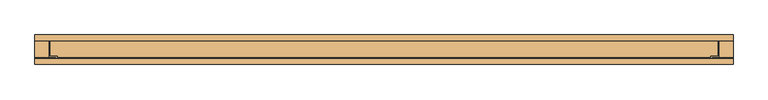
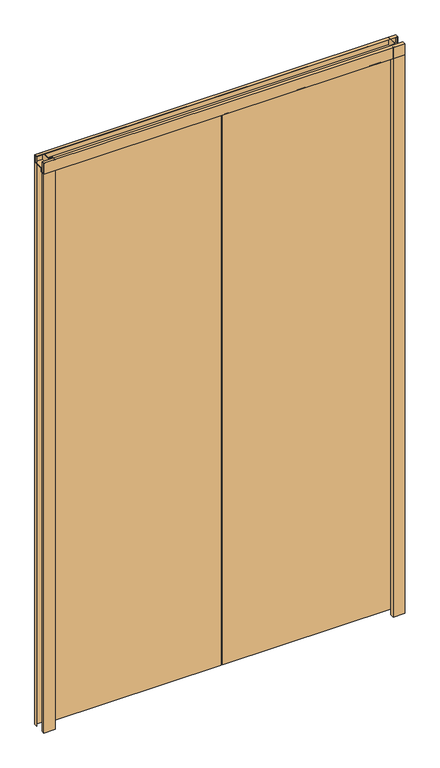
"""IFC4 building model written with IfcOpenShell, lengths in millimetres: door geometry, Puerta Metalica-lisa_doble : PH1-Puerta Metálica lisa_doble."""

import ifcopenshell
import ifcopenshell.guid

model = None  # the IFC model being written
_history = None  # IfcOwnerHistory: only IFC2X3 demands one
_inside = {}  # id of a spatial element -> (the spatial element, [elements in it])
_under = {}  # id of a project, library or spatial element -> (it, [spatial elements below it])
_declared = {}  # id of a project -> (the project, [libraries it declares])
_typed = {}  # id of a type object -> (the type object, [elements of that type])
_made_of = {}  # id of a material, layer set ... -> (it, [elements and type objects made of it])


def new_model(schema):
    """Start an empty IFC model of exactly this schema.

    Asked for "IFC4X3", IfcOpenShell would pick the latest addendum, in which some entities
    have other attributes; the version numbers below select the first issue.
    IFC2X3 requires an IfcOwnerHistory on every rooted entity: one is made here for all.
    """
    global model, _history
    if schema == "IFC4X3":
        model = ifcopenshell.file(schema_version=(4, 3, 0, 0))
    else:
        model = ifcopenshell.file(schema=schema)
    _inside.clear()
    _under.clear()
    _declared.clear()
    _typed.clear()
    _made_of.clear()
    _history = None
    if model.schema == "IFC2X3":
        org = make("IfcOrganization", Name="unknown")
        user = make(
            "IfcPersonAndOrganization",
            ThePerson=make("IfcPerson", FamilyName="unknown"),
            TheOrganization=org,
        )
        app = make(
            "IfcApplication",
            ApplicationDeveloper=org,
            Version="unknown",
            ApplicationFullName="unknown",
            ApplicationIdentifier="unknown",
        )
        _history = make(
            "IfcOwnerHistory",
            OwningUser=user,
            OwningApplication=app,
            ChangeAction="ADDED",
            CreationDate=0,
        )
    return model


def make(cls, **values):
    """One entity of the class cls with the attributes given. An attribute that is None is left unset."""
    return model.create_entity(
        cls, **{name: value for name, value in values.items() if value is not None}
    )


def rooted(cls, **values):
    """An entity with a GlobalId (a new one), such as an element, a storey or a relation."""
    return make(cls, GlobalId=ifcopenshell.guid.new(), OwnerHistory=_history, **values)


def si_unit(unit_type, name, prefix=None):
    """IfcSIUnit, for example si_unit("LENGTHUNIT", "METRE", prefix="MILLI")."""
    return make("IfcSIUnit", UnitType=unit_type, Prefix=prefix, Name=name)


def assignment(units):
    """IfcUnitAssignment: the units of a project."""
    return None if units is None else make("IfcUnitAssignment", Units=units)


def point(xyz):
    """IfcCartesianPoint."""
    return None if xyz is None else make("IfcCartesianPoint", Coordinates=xyz)


def direction(xyz):
    """IfcDirection."""
    return None if xyz is None else make("IfcDirection", DirectionRatios=xyz)


def frame(location, z_axis=None, x_axis=None):
    """IfcAxis2Placement3D, a coordinate frame: its origin and axes. An axis left out is left unset."""
    return make(
        "IfcAxis2Placement3D",
        Location=point(location),
        Axis=direction(z_axis),
        RefDirection=direction(x_axis),
    )


def origin():
    """The frame at (0, 0, 0) with its axes left unset."""
    return frame((0.0, 0.0, 0.0))


def origin_with_axes():
    """The frame at (0, 0, 0) with the z axis (0, 0, 1) and the x axis (1, 0, 0) written out."""
    return frame((0.0, 0.0, 0.0), z_axis=(0.0, 0.0, 1.0), x_axis=(1.0, 0.0, 0.0))


def place(relative_to, where):
    """IfcLocalPlacement: puts the frame where relative to a parent placement (None: the world)."""
    return make(
        "IfcLocalPlacement", PlacementRelTo=relative_to, RelativePlacement=where
    )


def context(
    kind, dimensions, precision=None, world=None, true_north=None, identifier=None
):
    """IfcGeometricRepresentationContext, for example the 3D "Model" context."""
    return make(
        "IfcGeometricRepresentationContext",
        ContextIdentifier=identifier,
        ContextType=kind,
        CoordinateSpaceDimension=dimensions,
        Precision=precision,
        WorldCoordinateSystem=world,
        TrueNorth=true_north,
    )


def project(units=None, contexts=None):
    """IfcProject with its units and contexts."""
    return rooted(
        "IfcProject",
        Name="project",
        RepresentationContexts=contexts,
        UnitsInContext=assignment(units),
    )


def spatial(cls, under=None, at=None, **own):
    """A site, building, storey or space (cls), placed at a placement, below another one or the project."""
    s = rooted(cls, ObjectPlacement=at, **own)
    if under is not None:
        _under.setdefault(under.id(), (under, []))[1].append(s)
    return s


def polyline(points):
    """IfcPolyline through the points."""
    return make("IfcPolyline", Points=[point(p) for p in points])


def outline(outer, holes=None, kind="AREA"):
    """IfcArbitraryClosedProfileDef: a profile drawn as a closed curve; with holes, ...WithVoids."""
    if holes is None:
        return make("IfcArbitraryClosedProfileDef", ProfileType=kind, OuterCurve=outer)
    return make(
        "IfcArbitraryProfileDefWithVoids",
        ProfileType=kind,
        OuterCurve=outer,
        InnerCurves=holes,
    )


def extrude(swept, where, along, depth):
    """IfcExtrudedAreaSolid: the profile swept, set in the frame where, extruded along a direction by depth."""
    return make(
        "IfcExtrudedAreaSolid",
        SweptArea=swept,
        Position=where,
        ExtrudedDirection=direction(along),
        Depth=depth,
    )


def shape(context_of_items, identifier, shape_type, items):
    """IfcShapeRepresentation: the items that make up one representation, for example the "Body"."""
    return make(
        "IfcShapeRepresentation",
        ContextOfItems=context_of_items,
        RepresentationIdentifier=identifier,
        RepresentationType=shape_type,
        Items=items,
    )


def source(mapping_origin, context_of_items, identifier, shape_type, items):
    """IfcRepresentationMap: a shape defined once, which mapped items show again and again."""
    return make(
        "IfcRepresentationMap",
        MappingOrigin=mapping_origin,
        MappedRepresentation=shape(context_of_items, identifier, shape_type, items),
    )


def transform(
    local_origin,
    x_axis=None,
    y_axis=None,
    z_axis=None,
    scale=None,
    scale2=None,
    scale3=None,
    uniform=True,
):
    """IfcCartesianTransformationOperator3D, or its non-uniform kind. x_axis, y_axis, z_axis: its Axis1, 2, 3."""
    if uniform:
        return make(
            "IfcCartesianTransformationOperator3D",
            Axis1=direction(x_axis),
            Axis2=direction(y_axis),
            LocalOrigin=point(local_origin),
            Scale=scale,
            Axis3=direction(z_axis),
        )
    return make(
        "IfcCartesianTransformationOperator3DnonUniform",
        Axis1=direction(x_axis),
        Axis2=direction(y_axis),
        LocalOrigin=point(local_origin),
        Scale=scale,
        Axis3=direction(z_axis),
        Scale2=scale2,
        Scale3=scale3,
    )


def mapped(mapping_source, mapping_target):
    """IfcMappedItem: shows the shape of a source again, moved by a transform."""
    return make(
        "IfcMappedItem", MappingSource=mapping_source, MappingTarget=mapping_target
    )


def made_of(thing, what):
    """Note that an element or type object is made of a material, layer set ...; save() writes the relation."""
    if what is not None:
        _made_of.setdefault(what.id(), (what, []))[1].append(thing)
    return thing


def element(
    cls,
    number,
    at=None,
    inside=None,
    cuts=None,
    type_object=None,
    material=None,
    context=None,
    identifier="Body",
    shape_type=None,
    held_by="IfcProductDefinitionShape",
    body=None,
    shapes=None,
    **own,
):
    """One element of the class cls, such as IfcWall. Its Tag is "e" and its number.

    at: its placement. inside: the storey or other place that contains it. cuts: it is an
    opening in that element (IfcRelVoidsElement). A single representation is given by context,
    identifier, shape_type and body (its items); several are given by shapes. held_by: the class
    of the entity that holds the representations. save() writes the other relations.
    """
    e = rooted(cls, Tag="e%d" % number, ObjectPlacement=at, **own)
    if body is not None:
        shapes = [shape(context, identifier, shape_type, body)]
    if shapes is not None:
        e.Representation = make(held_by, Representations=shapes)
    if inside is not None:
        _inside.setdefault(inside.id(), (inside, []))[1].append(e)
    if cuts is not None:
        rooted(
            "IfcRelVoidsElement", RelatingBuildingElement=cuts, RelatedOpeningElement=e
        )
    if type_object is not None:
        _typed.setdefault(type_object.id(), (type_object, []))[1].append(e)
    return made_of(e, material)


def aggregate(whole, parts):
    """IfcRelAggregates: a whole, such as a stair, and the parts it consists of."""
    return rooted("IfcRelAggregates", RelatingObject=whole, RelatedObjects=parts)


def save(model, path):
    """Write the relations noted so far, then the file.

    IfcRelAggregates (storeys below a building ...), IfcRelContainedInSpatialStructure (elements
    in a storey), IfcRelDefinesByType, IfcRelAssociatesMaterial and IfcRelDeclares: one each for
    every whole, place, type object, material and project.
    """
    for whole, parts in _under.values():
        aggregate(whole, parts)
    for where, things in _inside.values():
        rooted(
            "IfcRelContainedInSpatialStructure",
            RelatedElements=things,
            RelatingStructure=where,
        )
    for kind, things in _typed.values():
        rooted("IfcRelDefinesByType", RelatedObjects=things, RelatingType=kind)
    for what, things in _made_of.values():
        rooted("IfcRelAssociatesMaterial", RelatedObjects=things, RelatingMaterial=what)
    for by, libraries in _declared.values():
        rooted("IfcRelDeclares", RelatingContext=by, RelatedDefinitions=libraries)
    model.write(path)


def door_ce10c01f(model_context):
    return source(origin(), model_context, "Body", "SweptSolid", [
        extrude(outline(polyline([(15.4, 2000.0), (25.4, 2000.0), (25.4, 1974.6), (-11.6, 1974.6), (-11.6, 1961.9), (-25.4, 1961.9), (-25.4, 2000.0), (-15.4, 2000.0), (-15.4, 1999.0), (-24.4, 1999.0), (-24.4, 1962.9), (-12.6, 1962.9), (-12.6, 1975.6), (24.4, 1975.6), (24.4, 1999.0), (15.4, 1999.0), (15.4, 2000.0)])), frame((-600.0, 0.0, 0.0), z_axis=(1.0, 0.0, 0.0), x_axis=(0.0, 1.0, 0.0)), (0.0, 0.0, 1.0), 1200.0),
        extrude(outline(polyline([(-34.5, 22.9), (-3.0, 22.9), (-3.0, -8.6), (-34.5, -8.6), (-34.5, 22.9)])), frame((0.0, 0.0, 20.0), z_axis=(0.0, 0.0, 1.0), x_axis=(1.0, 0.0, 0.0)), (0.0, 0.0, 1.0), 1941.9),
        extrude(outline(polyline([(-538.5, 22.9), (-538.5, -8.6), (-570.0, -8.6), (-570.0, 22.9), (-538.5, 22.9)])), frame((0.0, 0.0, 20.0), z_axis=(0.0, 0.0, 1.0), x_axis=(1.0, 0.0, 0.0)), (0.0, 0.0, 1.0), 1941.9),
        extrude(outline(polyline([(-570.0, 25.4), (-3.0, 25.4), (-3.0, 22.9), (-570.0, 22.9), (-570.0, 25.4)])), frame((0.0, 0.0, 20.0), z_axis=(0.0, 0.0, 1.0), x_axis=(1.0, 0.0, 0.0)), (0.0, 0.0, 1.0), 1954.6),
        extrude(outline(polyline([(-3.0, -11.1), (-570.0, -11.1), (-570.0, -8.6), (-3.0, -8.6), (-3.0, -11.1)])), frame((0.0, 0.0, 20.0), z_axis=(0.0, 0.0, 1.0), x_axis=(1.0, 0.0, 0.0)), (0.0, 0.0, 1.0), 1954.6),
        extrude(outline(polyline([(34.5, 22.9), (34.5, -8.6), (3.0, -8.6), (3.0, 22.9), (34.5, 22.9)])), frame((0.0, 0.0, 20.0), z_axis=(0.0, 0.0, 1.0), x_axis=(1.0, 0.0, 0.0)), (0.0, 0.0, 1.0), 1941.9),
        extrude(outline(polyline([(538.5, 22.9), (570.0, 22.9), (570.0, -8.6), (538.5, -8.6), (538.5, 22.9)])), frame((0.0, 0.0, 20.0), z_axis=(0.0, 0.0, 1.0), x_axis=(1.0, 0.0, 0.0)), (0.0, 0.0, 1.0), 1941.9),
        extrude(outline(polyline([(570.0, 25.4), (570.0, 22.9), (3.0, 22.9), (3.0, 25.4), (570.0, 25.4)])), frame((0.0, 0.0, 20.0), z_axis=(0.0, 0.0, 1.0), x_axis=(1.0, 0.0, 0.0)), (0.0, 0.0, 1.0), 1954.6),
        extrude(outline(polyline([(3.0, -11.1), (3.0, -8.6), (570.0, -8.6), (570.0, -11.1), (3.0, -11.1)])), frame((0.0, 0.0, 20.0), z_axis=(0.0, 0.0, 1.0), x_axis=(1.0, 0.0, 0.0)), (0.0, 0.0, 1.0), 1954.6),
        extrude(outline(polyline([(-600.0, 15.4), (-600.0, 25.4), (-574.6, 25.4), (-574.6, -11.6), (-561.9, -11.6), (-561.9, -25.4), (-600.0, -25.4), (-600.0, -15.4), (-599.0, -15.4), (-599.0, -24.4), (-562.9, -24.4), (-562.9, -12.6), (-575.6, -12.6), (-575.6, 24.4), (-599.0, 24.4), (-599.0, 15.4), (-600.0, 15.4)])), origin_with_axes(), (0.0, 0.0, 1.0), 2000.0),
        extrude(outline(polyline([(600.0, 15.4), (599.0, 15.4), (599.0, 24.4), (575.6, 24.4), (575.6, -12.6), (562.9, -12.6), (562.9, -24.4), (599.0, -24.4), (599.0, -15.4), (600.0, -15.4), (600.0, -25.4), (561.9, -25.4), (561.9, -11.6), (574.6, -11.6), (574.6, 25.4), (600.0, 25.4), (600.0, 15.4)])), origin_with_axes(), (0.0, 0.0, 1.0), 2000.0),
    ])


if __name__ == "__main__":
    model = new_model("IFC4")
    model_context = context("Model", 3, world=origin())
    ifc_project = project(units=[si_unit("LENGTHUNIT", "METRE", prefix="MILLI")], contexts=[model_context])
    site = spatial("IfcSite", under=ifc_project)
    building = spatial("IfcBuilding", under=site)
    placement = place(None, origin())
    door_shape = door_ce10c01f(model_context)
    element("IfcDoor", 1, ObjectType="Puerta Metalica-lisa_doble : PH1-Puerta Metálica lisa_doble", at=placement, inside=building, context=model_context, shape_type="MappedRepresentation", body=[
        mapped(door_shape, transform((0.0, 0.0, 0.0), x_axis=(1.0, 0.0, 0.0), y_axis=(0.0, 1.0, 0.0), z_axis=(0.0, 0.0, 1.0))),
    ])
    save(model, "model.ifc")
